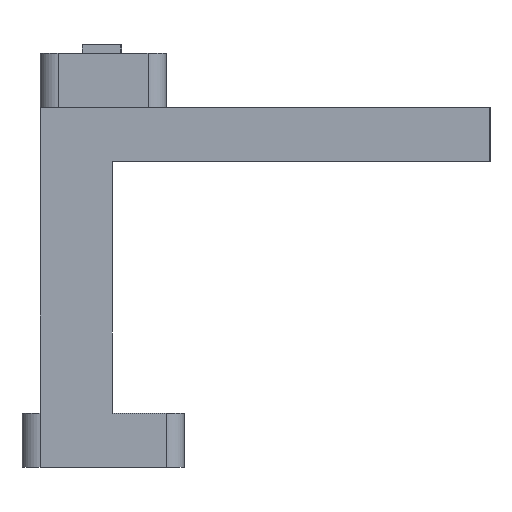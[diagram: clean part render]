
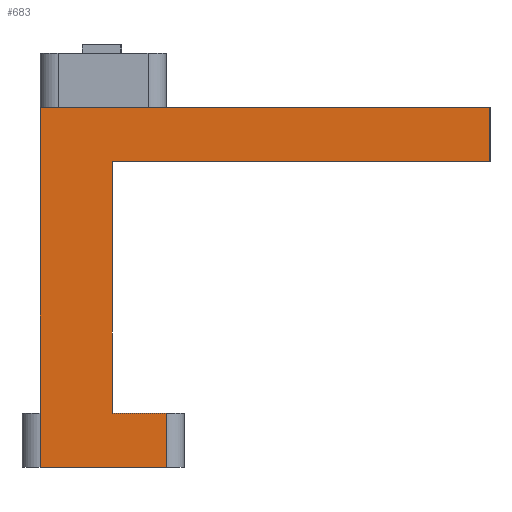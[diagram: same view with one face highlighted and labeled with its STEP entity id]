
A CAD part, left-side view. The second image highlights one B-rep face of the part: STEP entity #683.
In plain terms, the highlighted planar face has unit normal (-1, 0, 0).
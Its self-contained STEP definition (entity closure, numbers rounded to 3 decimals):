
#62 = PLANE('',#63);
#63 = AXIS2_PLACEMENT_3D('',#64,#65,#66);
#64 = CARTESIAN_POINT('',(0.,9.5,0.));
#65 = DIRECTION('',(0.,0.,1.));
#66 = DIRECTION('',(1.,0.,-0.));
#90 = CYLINDRICAL_SURFACE('',#91,1.);
#91 = AXIS2_PLACEMENT_3D('',#92,#93,#94);
#92 = CARTESIAN_POINT('',(-14.,6.,0.));
#93 = DIRECTION('',(0.,0.,1.));
#94 = DIRECTION('',(0.,-1.,0.));
#118 = PLANE('',#119);
#119 = AXIS2_PLACEMENT_3D('',#120,#121,#122);
#120 = CARTESIAN_POINT('',(0.,9.5,3.));
#121 = DIRECTION('',(0.,0.,1.));
#122 = DIRECTION('',(1.,0.,-0.));
#270 = VERTEX_POINT('',#271);
#271 = CARTESIAN_POINT('',(-15.,13.,0.));
#286 = CYLINDRICAL_SURFACE('',#287,1.);
#287 = AXIS2_PLACEMENT_3D('',#288,#289,#290);
#288 = CARTESIAN_POINT('',(-14.,13.,0.));
#289 = DIRECTION('',(0.,0.,1.));
#290 = DIRECTION('',(-0.,1.,0.));
#298 = EDGE_CURVE('',#270,#299,#301,.T.);
#299 = VERTEX_POINT('',#300);
#300 = CARTESIAN_POINT('',(-15.,6.,0.));
#301 = SURFACE_CURVE('',#302,(#306,#313),.PCURVE_S1.);
#302 = LINE('',#303,#304);
#303 = CARTESIAN_POINT('',(-15.,14.,0.));
#304 = VECTOR('',#305,1.);
#305 = DIRECTION('',(0.,-1.,0.));
#306 = PCURVE('',#62,#307);
#307 = DEFINITIONAL_REPRESENTATION('',(#308),#312);
#308 = LINE('',#309,#310);
#309 = CARTESIAN_POINT('',(-15.,4.5));
#310 = VECTOR('',#311,1.);
#311 = DIRECTION('',(0.,-1.));
#312 = ( GEOMETRIC_REPRESENTATION_CONTEXT(2) 
PARAMETRIC_REPRESENTATION_CONTEXT() REPRESENTATION_CONTEXT('2D SPACE',''
  ) );
#313 = PCURVE('',#314,#319);
#314 = PLANE('',#315);
#315 = AXIS2_PLACEMENT_3D('',#316,#317,#318);
#316 = CARTESIAN_POINT('',(-15.,14.,0.));
#317 = DIRECTION('',(1.,0.,-0.));
#318 = DIRECTION('',(0.,-1.,0.));
#319 = DEFINITIONAL_REPRESENTATION('',(#320),#324);
#320 = LINE('',#321,#322);
#321 = CARTESIAN_POINT('',(0.,0.));
#322 = VECTOR('',#323,1.);
#323 = DIRECTION('',(1.,0.));
#324 = ( GEOMETRIC_REPRESENTATION_CONTEXT(2) 
PARAMETRIC_REPRESENTATION_CONTEXT() REPRESENTATION_CONTEXT('2D SPACE',''
  ) );
#418 = EDGE_CURVE('',#299,#419,#421,.T.);
#419 = VERTEX_POINT('',#420);
#420 = CARTESIAN_POINT('',(-15.,6.,3.));
#421 = SURFACE_CURVE('',#422,(#426,#433),.PCURVE_S1.);
#422 = LINE('',#423,#424);
#423 = CARTESIAN_POINT('',(-15.,6.,0.));
#424 = VECTOR('',#425,1.);
#425 = DIRECTION('',(0.,0.,1.));
#426 = PCURVE('',#90,#427);
#427 = DEFINITIONAL_REPRESENTATION('',(#428),#432);
#428 = LINE('',#429,#430);
#429 = CARTESIAN_POINT('',(-1.571,0.));
#430 = VECTOR('',#431,1.);
#431 = DIRECTION('',(-0.,1.));
#432 = ( GEOMETRIC_REPRESENTATION_CONTEXT(2) 
PARAMETRIC_REPRESENTATION_CONTEXT() REPRESENTATION_CONTEXT('2D SPACE',''
  ) );
#433 = PCURVE('',#314,#434);
#434 = DEFINITIONAL_REPRESENTATION('',(#435),#439);
#435 = LINE('',#436,#437);
#436 = CARTESIAN_POINT('',(8.,0.));
#437 = VECTOR('',#438,1.);
#438 = DIRECTION('',(0.,-1.));
#439 = ( GEOMETRIC_REPRESENTATION_CONTEXT(2) 
PARAMETRIC_REPRESENTATION_CONTEXT() REPRESENTATION_CONTEXT('2D SPACE',''
  ) );
#562 = PLANE('',#563);
#563 = AXIS2_PLACEMENT_3D('',#564,#565,#566);
#564 = CARTESIAN_POINT('',(-15.,9.,2.9));
#565 = DIRECTION('',(-0.,1.,0.));
#566 = DIRECTION('',(0.,0.,1.));
#643 = VERTEX_POINT('',#644);
#644 = CARTESIAN_POINT('',(-15.,9.,3.));
#663 = EDGE_CURVE('',#643,#419,#664,.T.);
#664 = SURFACE_CURVE('',#665,(#669,#676),.PCURVE_S1.);
#665 = LINE('',#666,#667);
#666 = CARTESIAN_POINT('',(-15.,14.,3.));
#667 = VECTOR('',#668,1.);
#668 = DIRECTION('',(0.,-1.,0.));
#669 = PCURVE('',#118,#670);
#670 = DEFINITIONAL_REPRESENTATION('',(#671),#675);
#671 = LINE('',#672,#673);
#672 = CARTESIAN_POINT('',(-15.,4.5));
#673 = VECTOR('',#674,1.);
#674 = DIRECTION('',(0.,-1.));
#675 = ( GEOMETRIC_REPRESENTATION_CONTEXT(2) 
PARAMETRIC_REPRESENTATION_CONTEXT() REPRESENTATION_CONTEXT('2D SPACE',''
  ) );
#676 = PCURVE('',#314,#677);
#677 = DEFINITIONAL_REPRESENTATION('',(#678),#682);
#678 = LINE('',#679,#680);
#679 = CARTESIAN_POINT('',(0.,-3.));
#680 = VECTOR('',#681,1.);
#681 = DIRECTION('',(1.,0.));
#682 = ( GEOMETRIC_REPRESENTATION_CONTEXT(2) 
PARAMETRIC_REPRESENTATION_CONTEXT() REPRESENTATION_CONTEXT('2D SPACE',''
  ) );
#683 = ADVANCED_FACE('',(#684),#314,.F.);
#684 = FACE_BOUND('',#685,.F.);
#685 = EDGE_LOOP('',(#686,#687,#710,#738,#766,#794,#822,#843,#844));
#686 = ORIENTED_EDGE('',*,*,#298,.F.);
#687 = ORIENTED_EDGE('',*,*,#688,.F.);
#688 = EDGE_CURVE('',#689,#270,#691,.T.);
#689 = VERTEX_POINT('',#690);
#690 = CARTESIAN_POINT('',(-15.,13.,3.));
#691 = SURFACE_CURVE('',#692,(#696,#703),.PCURVE_S1.);
#692 = LINE('',#693,#694);
#693 = CARTESIAN_POINT('',(-15.,13.,3.));
#694 = VECTOR('',#695,1.);
#695 = DIRECTION('',(0.,0.,-1.));
#696 = PCURVE('',#314,#697);
#697 = DEFINITIONAL_REPRESENTATION('',(#698),#702);
#698 = LINE('',#699,#700);
#699 = CARTESIAN_POINT('',(1.,-3.));
#700 = VECTOR('',#701,1.);
#701 = DIRECTION('',(0.,1.));
#702 = ( GEOMETRIC_REPRESENTATION_CONTEXT(2) 
PARAMETRIC_REPRESENTATION_CONTEXT() REPRESENTATION_CONTEXT('2D SPACE',''
  ) );
#703 = PCURVE('',#286,#704);
#704 = DEFINITIONAL_REPRESENTATION('',(#705),#709);
#705 = LINE('',#706,#707);
#706 = CARTESIAN_POINT('',(1.571,3.));
#707 = VECTOR('',#708,1.);
#708 = DIRECTION('',(-0.,-1.));
#709 = ( GEOMETRIC_REPRESENTATION_CONTEXT(2) 
PARAMETRIC_REPRESENTATION_CONTEXT() REPRESENTATION_CONTEXT('2D SPACE',''
  ) );
#710 = ORIENTED_EDGE('',*,*,#711,.F.);
#711 = EDGE_CURVE('',#712,#689,#714,.T.);
#712 = VERTEX_POINT('',#713);
#713 = CARTESIAN_POINT('',(-15.,13.,20.));
#714 = SURFACE_CURVE('',#715,(#719,#726),.PCURVE_S1.);
#715 = LINE('',#716,#717);
#716 = CARTESIAN_POINT('',(-15.,13.,20.));
#717 = VECTOR('',#718,1.);
#718 = DIRECTION('',(0.,0.,-1.));
#719 = PCURVE('',#314,#720);
#720 = DEFINITIONAL_REPRESENTATION('',(#721),#725);
#721 = LINE('',#722,#723);
#722 = CARTESIAN_POINT('',(1.,-20.));
#723 = VECTOR('',#724,1.);
#724 = DIRECTION('',(0.,1.));
#725 = ( GEOMETRIC_REPRESENTATION_CONTEXT(2) 
PARAMETRIC_REPRESENTATION_CONTEXT() REPRESENTATION_CONTEXT('2D SPACE',''
  ) );
#726 = PCURVE('',#727,#732);
#727 = PLANE('',#728);
#728 = AXIS2_PLACEMENT_3D('',#729,#730,#731);
#729 = CARTESIAN_POINT('',(-15.,13.,2.9));
#730 = DIRECTION('',(-0.,1.,0.));
#731 = DIRECTION('',(0.,0.,1.));
#732 = DEFINITIONAL_REPRESENTATION('',(#733),#737);
#733 = LINE('',#734,#735);
#734 = CARTESIAN_POINT('',(17.1,0.));
#735 = VECTOR('',#736,1.);
#736 = DIRECTION('',(-1.,0.));
#737 = ( GEOMETRIC_REPRESENTATION_CONTEXT(2) 
PARAMETRIC_REPRESENTATION_CONTEXT() REPRESENTATION_CONTEXT('2D SPACE',''
  ) );
#738 = ORIENTED_EDGE('',*,*,#739,.F.);
#739 = EDGE_CURVE('',#740,#712,#742,.T.);
#740 = VERTEX_POINT('',#741);
#741 = CARTESIAN_POINT('',(-15.,-12.,20.));
#742 = SURFACE_CURVE('',#743,(#747,#754),.PCURVE_S1.);
#743 = LINE('',#744,#745);
#744 = CARTESIAN_POINT('',(-15.,-12.,20.));
#745 = VECTOR('',#746,1.);
#746 = DIRECTION('',(0.,1.,0.));
#747 = PCURVE('',#314,#748);
#748 = DEFINITIONAL_REPRESENTATION('',(#749),#753);
#749 = LINE('',#750,#751);
#750 = CARTESIAN_POINT('',(26.,-20.));
#751 = VECTOR('',#752,1.);
#752 = DIRECTION('',(-1.,0.));
#753 = ( GEOMETRIC_REPRESENTATION_CONTEXT(2) 
PARAMETRIC_REPRESENTATION_CONTEXT() REPRESENTATION_CONTEXT('2D SPACE',''
  ) );
#754 = PCURVE('',#755,#760);
#755 = PLANE('',#756);
#756 = AXIS2_PLACEMENT_3D('',#757,#758,#759);
#757 = CARTESIAN_POINT('',(-15.,9.,20.));
#758 = DIRECTION('',(0.,0.,1.));
#759 = DIRECTION('',(1.,0.,-0.));
#760 = DEFINITIONAL_REPRESENTATION('',(#761),#765);
#761 = LINE('',#762,#763);
#762 = CARTESIAN_POINT('',(0.,-21.));
#763 = VECTOR('',#764,1.);
#764 = DIRECTION('',(0.,1.));
#765 = ( GEOMETRIC_REPRESENTATION_CONTEXT(2) 
PARAMETRIC_REPRESENTATION_CONTEXT() REPRESENTATION_CONTEXT('2D SPACE',''
  ) );
#766 = ORIENTED_EDGE('',*,*,#767,.F.);
#767 = EDGE_CURVE('',#768,#740,#770,.T.);
#768 = VERTEX_POINT('',#769);
#769 = CARTESIAN_POINT('',(-15.,-12.,17.));
#770 = SURFACE_CURVE('',#771,(#775,#782),.PCURVE_S1.);
#771 = LINE('',#772,#773);
#772 = CARTESIAN_POINT('',(-15.,-12.,17.));
#773 = VECTOR('',#774,1.);
#774 = DIRECTION('',(0.,0.,1.));
#775 = PCURVE('',#314,#776);
#776 = DEFINITIONAL_REPRESENTATION('',(#777),#781);
#777 = LINE('',#778,#779);
#778 = CARTESIAN_POINT('',(26.,-17.));
#779 = VECTOR('',#780,1.);
#780 = DIRECTION('',(0.,-1.));
#781 = ( GEOMETRIC_REPRESENTATION_CONTEXT(2) 
PARAMETRIC_REPRESENTATION_CONTEXT() REPRESENTATION_CONTEXT('2D SPACE',''
  ) );
#782 = PCURVE('',#783,#788);
#783 = PLANE('',#784);
#784 = AXIS2_PLACEMENT_3D('',#785,#786,#787);
#785 = CARTESIAN_POINT('',(-15.,-12.,17.));
#786 = DIRECTION('',(-0.,1.,0.));
#787 = DIRECTION('',(0.,0.,1.));
#788 = DEFINITIONAL_REPRESENTATION('',(#789),#793);
#789 = LINE('',#790,#791);
#790 = CARTESIAN_POINT('',(0.,0.));
#791 = VECTOR('',#792,1.);
#792 = DIRECTION('',(1.,0.));
#793 = ( GEOMETRIC_REPRESENTATION_CONTEXT(2) 
PARAMETRIC_REPRESENTATION_CONTEXT() REPRESENTATION_CONTEXT('2D SPACE',''
  ) );
#794 = ORIENTED_EDGE('',*,*,#795,.T.);
#795 = EDGE_CURVE('',#768,#796,#798,.T.);
#796 = VERTEX_POINT('',#797);
#797 = CARTESIAN_POINT('',(-15.,9.,17.));
#798 = SURFACE_CURVE('',#799,(#803,#810),.PCURVE_S1.);
#799 = LINE('',#800,#801);
#800 = CARTESIAN_POINT('',(-15.,-12.,17.));
#801 = VECTOR('',#802,1.);
#802 = DIRECTION('',(-0.,1.,0.));
#803 = PCURVE('',#314,#804);
#804 = DEFINITIONAL_REPRESENTATION('',(#805),#809);
#805 = LINE('',#806,#807);
#806 = CARTESIAN_POINT('',(26.,-17.));
#807 = VECTOR('',#808,1.);
#808 = DIRECTION('',(-1.,-0.));
#809 = ( GEOMETRIC_REPRESENTATION_CONTEXT(2) 
PARAMETRIC_REPRESENTATION_CONTEXT() REPRESENTATION_CONTEXT('2D SPACE',''
  ) );
#810 = PCURVE('',#811,#816);
#811 = PLANE('',#812);
#812 = AXIS2_PLACEMENT_3D('',#813,#814,#815);
#813 = CARTESIAN_POINT('',(-15.,-12.,17.));
#814 = DIRECTION('',(0.,0.,1.));
#815 = DIRECTION('',(1.,0.,-0.));
#816 = DEFINITIONAL_REPRESENTATION('',(#817),#821);
#817 = LINE('',#818,#819);
#818 = CARTESIAN_POINT('',(0.,0.));
#819 = VECTOR('',#820,1.);
#820 = DIRECTION('',(0.,1.));
#821 = ( GEOMETRIC_REPRESENTATION_CONTEXT(2) 
PARAMETRIC_REPRESENTATION_CONTEXT() REPRESENTATION_CONTEXT('2D SPACE',''
  ) );
#822 = ORIENTED_EDGE('',*,*,#823,.F.);
#823 = EDGE_CURVE('',#643,#796,#824,.T.);
#824 = SURFACE_CURVE('',#825,(#829,#836),.PCURVE_S1.);
#825 = LINE('',#826,#827);
#826 = CARTESIAN_POINT('',(-15.,9.,2.9));
#827 = VECTOR('',#828,1.);
#828 = DIRECTION('',(0.,0.,1.));
#829 = PCURVE('',#314,#830);
#830 = DEFINITIONAL_REPRESENTATION('',(#831),#835);
#831 = LINE('',#832,#833);
#832 = CARTESIAN_POINT('',(5.,-2.9));
#833 = VECTOR('',#834,1.);
#834 = DIRECTION('',(0.,-1.));
#835 = ( GEOMETRIC_REPRESENTATION_CONTEXT(2) 
PARAMETRIC_REPRESENTATION_CONTEXT() REPRESENTATION_CONTEXT('2D SPACE',''
  ) );
#836 = PCURVE('',#562,#837);
#837 = DEFINITIONAL_REPRESENTATION('',(#838),#842);
#838 = LINE('',#839,#840);
#839 = CARTESIAN_POINT('',(0.,0.));
#840 = VECTOR('',#841,1.);
#841 = DIRECTION('',(1.,0.));
#842 = ( GEOMETRIC_REPRESENTATION_CONTEXT(2) 
PARAMETRIC_REPRESENTATION_CONTEXT() REPRESENTATION_CONTEXT('2D SPACE',''
  ) );
#843 = ORIENTED_EDGE('',*,*,#663,.T.);
#844 = ORIENTED_EDGE('',*,*,#418,.F.);
